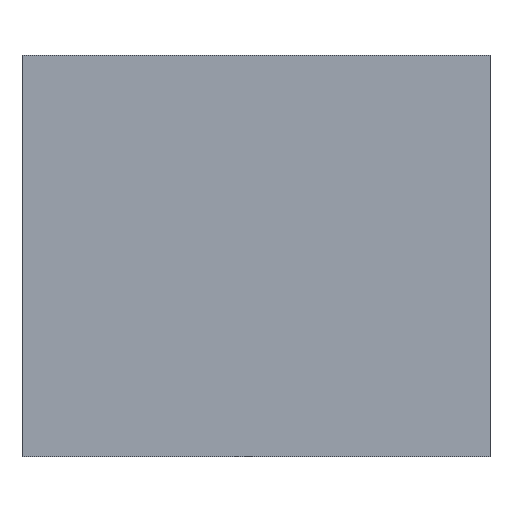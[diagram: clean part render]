
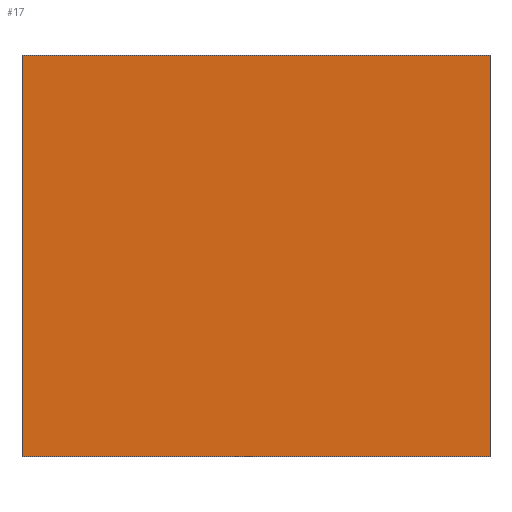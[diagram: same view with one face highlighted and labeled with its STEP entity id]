
A CAD part, left-side view. The second image highlights one B-rep face of the part: STEP entity #17.
In plain terms, the highlighted planar face has unit normal (-1, 0, 0).
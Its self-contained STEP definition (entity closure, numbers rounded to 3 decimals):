
#17 = ADVANCED_FACE('',(#18),#32,.F.);
#18 = FACE_BOUND('',#19,.F.);
#19 = EDGE_LOOP('',(#20,#55,#83,#111));
#20 = ORIENTED_EDGE('',*,*,#21,.F.);
#21 = EDGE_CURVE('',#22,#24,#26,.T.);
#22 = VERTEX_POINT('',#23);
#23 = CARTESIAN_POINT('',(80.,-210.,-180.));
#24 = VERTEX_POINT('',#25);
#25 = CARTESIAN_POINT('',(80.,-210.,180.));
#26 = SURFACE_CURVE('',#27,(#31,#43),.PCURVE_S1.);
#27 = LINE('',#28,#29);
#28 = CARTESIAN_POINT('',(80.,-210.,-180.));
#29 = VECTOR('',#30,1.);
#30 = DIRECTION('',(0.,0.,1.));
#31 = PCURVE('',#32,#37);
#32 = PLANE('',#33);
#33 = AXIS2_PLACEMENT_3D('',#34,#35,#36);
#34 = CARTESIAN_POINT('',(80.,-210.,-180.));
#35 = DIRECTION('',(1.,0.,0.));
#36 = DIRECTION('',(0.,0.,1.));
#37 = DEFINITIONAL_REPRESENTATION('',(#38),#42);
#38 = LINE('',#39,#40);
#39 = CARTESIAN_POINT('',(0.,0.));
#40 = VECTOR('',#41,1.);
#41 = DIRECTION('',(1.,0.));
#42 = ( GEOMETRIC_REPRESENTATION_CONTEXT(2) 
PARAMETRIC_REPRESENTATION_CONTEXT() REPRESENTATION_CONTEXT('2D SPACE',''
  ) );
#43 = PCURVE('',#44,#49);
#44 = PLANE('',#45);
#45 = AXIS2_PLACEMENT_3D('',#46,#47,#48);
#46 = CARTESIAN_POINT('',(80.,-210.,-180.));
#47 = DIRECTION('',(0.,1.,0.));
#48 = DIRECTION('',(0.,0.,1.));
#49 = DEFINITIONAL_REPRESENTATION('',(#50),#54);
#50 = LINE('',#51,#52);
#51 = CARTESIAN_POINT('',(0.,0.));
#52 = VECTOR('',#53,1.);
#53 = DIRECTION('',(1.,0.));
#54 = ( GEOMETRIC_REPRESENTATION_CONTEXT(2) 
PARAMETRIC_REPRESENTATION_CONTEXT() REPRESENTATION_CONTEXT('2D SPACE',''
  ) );
#55 = ORIENTED_EDGE('',*,*,#56,.T.);
#56 = EDGE_CURVE('',#22,#57,#59,.T.);
#57 = VERTEX_POINT('',#58);
#58 = CARTESIAN_POINT('',(80.,210.,-180.));
#59 = SURFACE_CURVE('',#60,(#64,#71),.PCURVE_S1.);
#60 = LINE('',#61,#62);
#61 = CARTESIAN_POINT('',(80.,-210.,-180.));
#62 = VECTOR('',#63,1.);
#63 = DIRECTION('',(0.,1.,0.));
#64 = PCURVE('',#32,#65);
#65 = DEFINITIONAL_REPRESENTATION('',(#66),#70);
#66 = LINE('',#67,#68);
#67 = CARTESIAN_POINT('',(0.,0.));
#68 = VECTOR('',#69,1.);
#69 = DIRECTION('',(0.,-1.));
#70 = ( GEOMETRIC_REPRESENTATION_CONTEXT(2) 
PARAMETRIC_REPRESENTATION_CONTEXT() REPRESENTATION_CONTEXT('2D SPACE',''
  ) );
#71 = PCURVE('',#72,#77);
#72 = PLANE('',#73);
#73 = AXIS2_PLACEMENT_3D('',#74,#75,#76);
#74 = CARTESIAN_POINT('',(80.,-210.,-180.));
#75 = DIRECTION('',(0.,0.,1.));
#76 = DIRECTION('',(1.,0.,0.));
#77 = DEFINITIONAL_REPRESENTATION('',(#78),#82);
#78 = LINE('',#79,#80);
#79 = CARTESIAN_POINT('',(0.,0.));
#80 = VECTOR('',#81,1.);
#81 = DIRECTION('',(0.,1.));
#82 = ( GEOMETRIC_REPRESENTATION_CONTEXT(2) 
PARAMETRIC_REPRESENTATION_CONTEXT() REPRESENTATION_CONTEXT('2D SPACE',''
  ) );
#83 = ORIENTED_EDGE('',*,*,#84,.T.);
#84 = EDGE_CURVE('',#57,#85,#87,.T.);
#85 = VERTEX_POINT('',#86);
#86 = CARTESIAN_POINT('',(80.,210.,180.));
#87 = SURFACE_CURVE('',#88,(#92,#99),.PCURVE_S1.);
#88 = LINE('',#89,#90);
#89 = CARTESIAN_POINT('',(80.,210.,-180.));
#90 = VECTOR('',#91,1.);
#91 = DIRECTION('',(0.,0.,1.));
#92 = PCURVE('',#32,#93);
#93 = DEFINITIONAL_REPRESENTATION('',(#94),#98);
#94 = LINE('',#95,#96);
#95 = CARTESIAN_POINT('',(0.,-420.));
#96 = VECTOR('',#97,1.);
#97 = DIRECTION('',(1.,0.));
#98 = ( GEOMETRIC_REPRESENTATION_CONTEXT(2) 
PARAMETRIC_REPRESENTATION_CONTEXT() REPRESENTATION_CONTEXT('2D SPACE',''
  ) );
#99 = PCURVE('',#100,#105);
#100 = PLANE('',#101);
#101 = AXIS2_PLACEMENT_3D('',#102,#103,#104);
#102 = CARTESIAN_POINT('',(80.,210.,-180.));
#103 = DIRECTION('',(0.,1.,0.));
#104 = DIRECTION('',(0.,0.,1.));
#105 = DEFINITIONAL_REPRESENTATION('',(#106),#110);
#106 = LINE('',#107,#108);
#107 = CARTESIAN_POINT('',(0.,0.));
#108 = VECTOR('',#109,1.);
#109 = DIRECTION('',(1.,0.));
#110 = ( GEOMETRIC_REPRESENTATION_CONTEXT(2) 
PARAMETRIC_REPRESENTATION_CONTEXT() REPRESENTATION_CONTEXT('2D SPACE',''
  ) );
#111 = ORIENTED_EDGE('',*,*,#112,.F.);
#112 = EDGE_CURVE('',#24,#85,#113,.T.);
#113 = SURFACE_CURVE('',#114,(#118,#125),.PCURVE_S1.);
#114 = LINE('',#115,#116);
#115 = CARTESIAN_POINT('',(80.,-210.,180.));
#116 = VECTOR('',#117,1.);
#117 = DIRECTION('',(0.,1.,0.));
#118 = PCURVE('',#32,#119);
#119 = DEFINITIONAL_REPRESENTATION('',(#120),#124);
#120 = LINE('',#121,#122);
#121 = CARTESIAN_POINT('',(360.,0.));
#122 = VECTOR('',#123,1.);
#123 = DIRECTION('',(0.,-1.));
#124 = ( GEOMETRIC_REPRESENTATION_CONTEXT(2) 
PARAMETRIC_REPRESENTATION_CONTEXT() REPRESENTATION_CONTEXT('2D SPACE',''
  ) );
#125 = PCURVE('',#126,#131);
#126 = PLANE('',#127);
#127 = AXIS2_PLACEMENT_3D('',#128,#129,#130);
#128 = CARTESIAN_POINT('',(80.,-210.,180.));
#129 = DIRECTION('',(0.,0.,1.));
#130 = DIRECTION('',(1.,0.,0.));
#131 = DEFINITIONAL_REPRESENTATION('',(#132),#136);
#132 = LINE('',#133,#134);
#133 = CARTESIAN_POINT('',(0.,0.));
#134 = VECTOR('',#135,1.);
#135 = DIRECTION('',(0.,1.));
#136 = ( GEOMETRIC_REPRESENTATION_CONTEXT(2) 
PARAMETRIC_REPRESENTATION_CONTEXT() REPRESENTATION_CONTEXT('2D SPACE',''
  ) );
